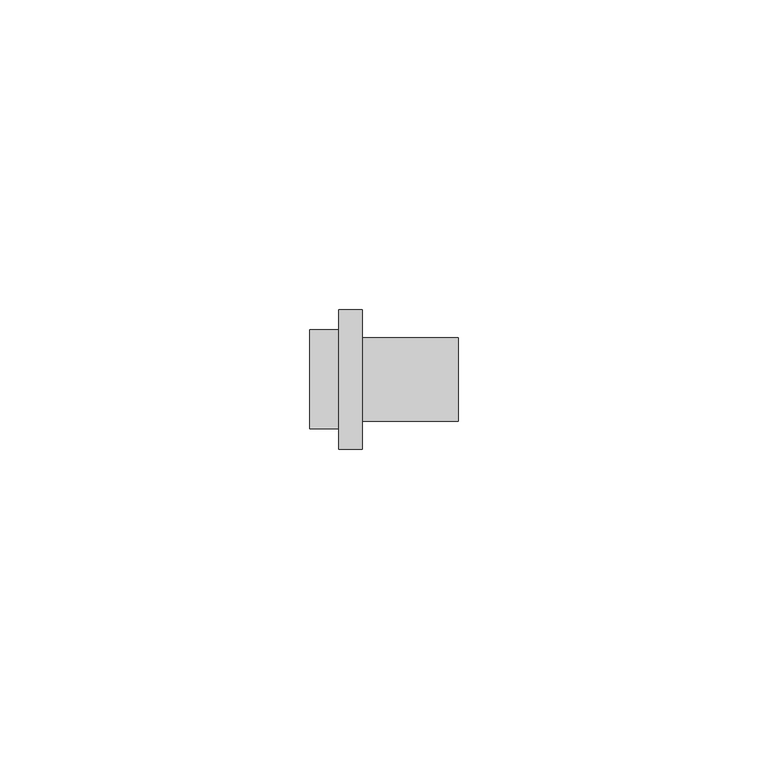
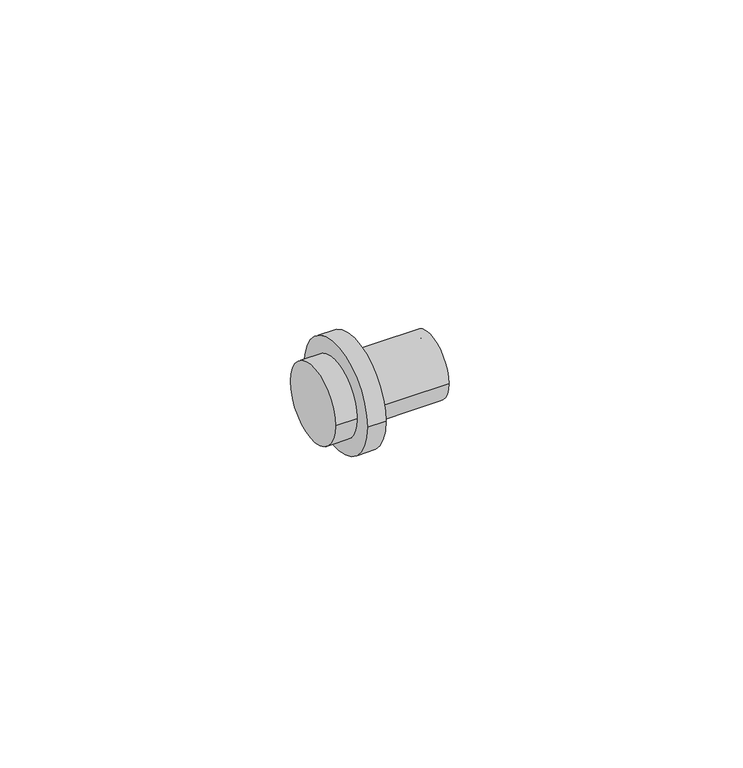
"""IFC4 building model written with IfcOpenShell, lengths in millimetres: pipe fitting geometry, REHAU_RAUTITAN_Dummy_Plug_RX+ : REHAU_RAUTITAN_Dummy_Plug_RX+."""

from ifc_helpers import new_model, si_unit, point, frame, origin, origin_2d, place, context, project, spatial, polyline, circle_curve, trimmed, segment, composite_curve, outline, extrude, source, transform, mapped, element, save
from ifc_brep_helpers import plane_surface, cylinder_surface, revolved_surface, advanced_brep


def pipe_fitting_b68d655f(model_context):
    return source(origin(), model_context, "Body", "SolidModel", [
        extrude(outline(composite_curve([segment(trimmed(circle_curve(origin_2d(), 6.725), [point((-6.725, 0.0))], [point((6.725, 0.0))], False, "CARTESIAN"), True, "CONTINUOUS"), segment(trimmed(circle_curve(origin_2d(), 6.725), [point((6.725, 0.0))], [point((-6.725, 0.0))], False, "CARTESIAN"), True, "CONTINUOUS")], self_intersect=False), holes=[composite_curve([segment(trimmed(circle_curve(origin_2d(), 4.95), [point((-4.95, 0.0))], [point((4.95, 0.0))], True, "CARTESIAN"), True, "CONTINUOUS"), segment(trimmed(circle_curve(origin_2d(), 4.95), [point((4.95, 0.0))], [point((-4.95, 0.0))], True, "CARTESIAN"), True, "CONTINUOUS")], self_intersect=False)]), frame((1.3, 0.0, 0.0), z_axis=(1.0, 0.0, 0.0), x_axis=(0.0, 1.0, 0.0)), (0.0, 0.0, 1.0), 18.0),
        advanced_brep(
        [(3.8, -11.25, 0.0), (3.8, 11.25, 0.0), (3.8, 4.95, 0.0), (3.8, -4.95, 0.0), (0.0, -11.25, 0.0), (0.0, 11.25, 0.0), (1.3, -4.95, 0.0), (1.3, 4.95, 0.0)],
        [
            (0, 1, circle_curve(frame((3.8, 0.0, 0.0), z_axis=(1.0, 0.0, 0.0), x_axis=(0.0, 1.0, 0.0)), 11.25)),
            (1, 0, circle_curve(frame((3.8, 0.0, 0.0), z_axis=(1.0, 0.0, 0.0), x_axis=(0.0, 1.0, 0.0)), 11.25)),
            (2, 3, circle_curve(frame((3.8, 0.0, 0.0), z_axis=(-1.0, 0.0, 0.0), x_axis=(0.0, 1.0, 0.0)), 4.95)),
            (3, 2, circle_curve(frame((3.8, 0.0, 0.0), z_axis=(-1.0, 0.0, 0.0), x_axis=(0.0, 1.0, 0.0)), 4.95)),
            (4, 5, circle_curve(frame((0.0, 0.0, 0.0), z_axis=(-1.0, 0.0, 0.0), x_axis=(0.0, 1.0, 0.0)), 11.25)),
            (5, 4, circle_curve(frame((0.0, 0.0, 0.0), z_axis=(-1.0, 0.0, 0.0), x_axis=(0.0, 1.0, 0.0)), 11.25)),
            (0, 4),
            (5, 1),
            (6, 7, circle_curve(frame((1.3, 0.0, 0.0), z_axis=(1.0, 0.0, 0.0), x_axis=(0.0, 1.0, 0.0)), 4.95)),
            (7, 6, circle_curve(frame((1.3, 0.0, 0.0), z_axis=(1.0, 0.0, 0.0), x_axis=(0.0, 1.0, 0.0)), 4.95)),
            (6, 3),
            (2, 7),
        ],
        [
            plane_surface(frame((3.8, 11.25, 0.0), z_axis=(1.0, 0.0, 0.0), x_axis=(0.0, 0.0, 1.0))),
            plane_surface(frame((0.0, 11.25, 0.0), z_axis=(-1.0, 0.0, 0.0), x_axis=(0.0, 0.0, -1.0))),
            cylinder_surface(frame((0.0, 0.0, 0.0), z_axis=(1.0, 0.0, 0.0), x_axis=(0.0, 1.0, 0.0)), 11.25),
            plane_surface(frame((1.3, 4.95, 0.0), z_axis=(1.0, 0.0, 0.0), x_axis=(0.0, 0.0, -1.0))),
            revolved_surface(polyline([(3.8, 4.95, 0.0), (1.3, 4.95, 0.0)]), (1.3, 0.0, 0.0), (1.0, 0.0, 0.0)),
        ],
        [
            (0, [[1, 2], [3, 4]]),
            (1, [[5, 6]]),
            (2, [[-1, 7, -6, 8]]),
            (2, [[-2, -8, -5, -7]]),
            (3, [[9, 10]]),
            (4, [[-9, 11, -3, 12]]),
            (4, [[-10, -12, -4, -11]]),
        ],
    ),
        extrude(outline(composite_curve([segment(trimmed(circle_curve(origin_2d(), 8.0), [point((-8.0, 0.0))], [point((8.0, 0.0))], False, "CARTESIAN"), True, "CONTINUOUS"), segment(trimmed(circle_curve(origin_2d(), 8.0), [point((8.0, 0.0))], [point((-8.0, 0.0))], False, "CARTESIAN"), True, "CONTINUOUS")], self_intersect=False)), frame((-4.7, 0.0, 0.0), z_axis=(1.0, 0.0, 0.0), x_axis=(0.0, 1.0, 0.0)), (0.0, 0.0, 1.0), 4.7),
    ])


if __name__ == "__main__":
    model = new_model("IFC4")
    model_context = context("Model", 3, world=origin())
    ifc_project = project(units=[si_unit("LENGTHUNIT", "METRE", prefix="MILLI")], contexts=[model_context])
    site = spatial("IfcSite", under=ifc_project)
    building = spatial("IfcBuilding", under=site)
    placement = place(None, origin())
    pipe_fitting_shape = pipe_fitting_b68d655f(model_context)
    element("IfcPipeFitting", 1, ObjectType="REHAU_RAUTITAN_Dummy_Plug_RX+ : REHAU_RAUTITAN_Dummy_Plug_RX+", at=placement, inside=building, context=model_context, shape_type="MappedRepresentation", body=[
        mapped(pipe_fitting_shape, transform((0.0, 0.0, 0.0), x_axis=(1.0, 0.0, 0.0), y_axis=(0.0, 1.0, 0.0), z_axis=(0.0, 0.0, 1.0))),
    ])
    save(model, "model.ifc")
